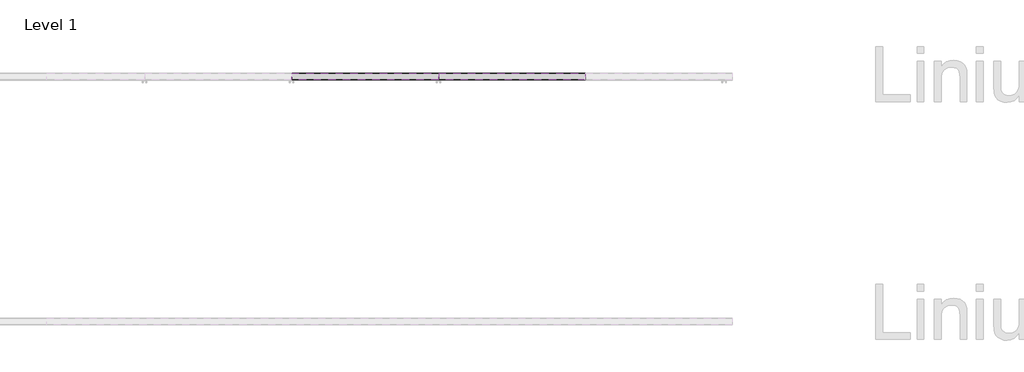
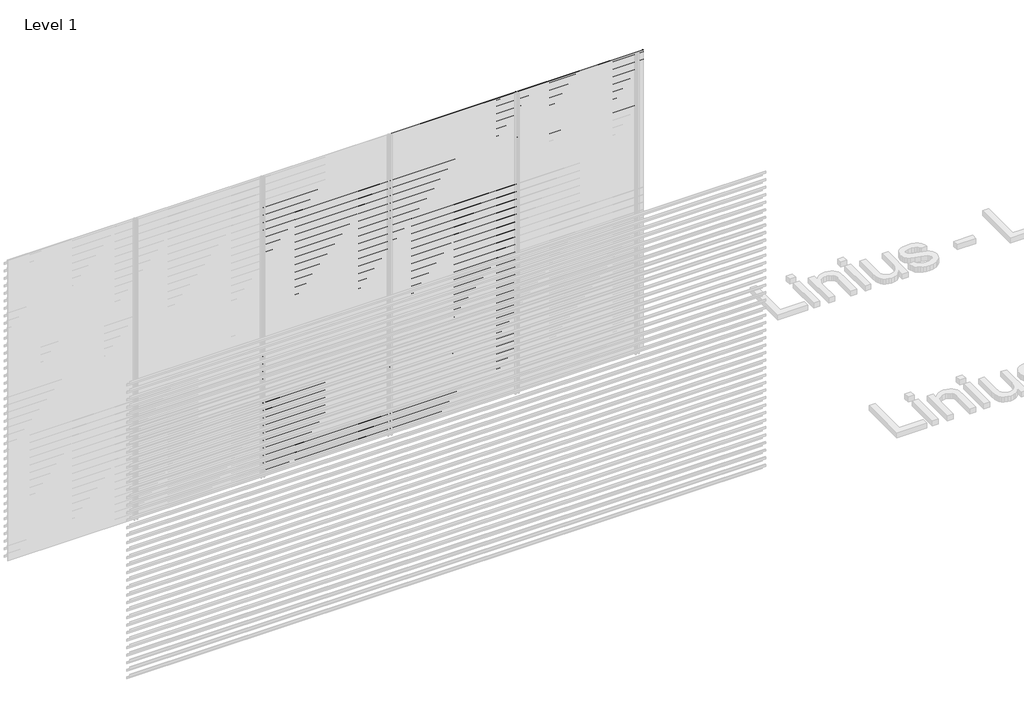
# One storey, part 48 of 55: 84 proxies.
"""IFC4 building model written with IfcOpenShell, lengths in millimetres."""

import ifcopenshell
import ifcopenshell.guid

model = None  # the IFC model being written
_history = None  # IfcOwnerHistory: only IFC2X3 demands one
_inside = {}  # id of a spatial element -> (the spatial element, [elements in it])
_under = {}  # id of a project, library or spatial element -> (it, [spatial elements below it])
_declared = {}  # id of a project -> (the project, [libraries it declares])
_typed = {}  # id of a type object -> (the type object, [elements of that type])
_made_of = {}  # id of a material, layer set ... -> (it, [elements and type objects made of it])


def new_model(schema):
    """Start an empty IFC model of exactly this schema.

    Asked for "IFC4X3", IfcOpenShell would pick the latest addendum, in which some entities
    have other attributes; the version numbers below select the first issue.
    IFC2X3 requires an IfcOwnerHistory on every rooted entity: one is made here for all.
    """
    global model, _history
    if schema == "IFC4X3":
        model = ifcopenshell.file(schema_version=(4, 3, 0, 0))
    else:
        model = ifcopenshell.file(schema=schema)
    _inside.clear()
    _under.clear()
    _declared.clear()
    _typed.clear()
    _made_of.clear()
    _history = None
    if model.schema == "IFC2X3":
        org = make("IfcOrganization", Name="unknown")
        user = make(
            "IfcPersonAndOrganization",
            ThePerson=make("IfcPerson", FamilyName="unknown"),
            TheOrganization=org,
        )
        app = make(
            "IfcApplication",
            ApplicationDeveloper=org,
            Version="unknown",
            ApplicationFullName="unknown",
            ApplicationIdentifier="unknown",
        )
        _history = make(
            "IfcOwnerHistory",
            OwningUser=user,
            OwningApplication=app,
            ChangeAction="ADDED",
            CreationDate=0,
        )
    return model


def make(cls, **values):
    """One entity of the class cls with the attributes given. An attribute that is None is left unset."""
    return model.create_entity(
        cls, **{name: value for name, value in values.items() if value is not None}
    )


def rooted(cls, **values):
    """An entity with a GlobalId (a new one), such as an element, a storey or a relation."""
    return make(cls, GlobalId=ifcopenshell.guid.new(), OwnerHistory=_history, **values)


def si_unit(unit_type, name, prefix=None):
    """IfcSIUnit, for example si_unit("LENGTHUNIT", "METRE", prefix="MILLI")."""
    return make("IfcSIUnit", UnitType=unit_type, Prefix=prefix, Name=name)


def assignment(units):
    """IfcUnitAssignment: the units of a project."""
    return None if units is None else make("IfcUnitAssignment", Units=units)


def point(xyz):
    """IfcCartesianPoint."""
    return None if xyz is None else make("IfcCartesianPoint", Coordinates=xyz)


def direction(xyz):
    """IfcDirection."""
    return None if xyz is None else make("IfcDirection", DirectionRatios=xyz)


def frame(location, z_axis=None, x_axis=None):
    """IfcAxis2Placement3D, a coordinate frame: its origin and axes. An axis left out is left unset."""
    return make(
        "IfcAxis2Placement3D",
        Location=point(location),
        Axis=direction(z_axis),
        RefDirection=direction(x_axis),
    )


def origin():
    """The frame at (0, 0, 0) with its axes left unset."""
    return frame((0.0, 0.0, 0.0))


def place(relative_to, where):
    """IfcLocalPlacement: puts the frame where relative to a parent placement (None: the world)."""
    return make(
        "IfcLocalPlacement", PlacementRelTo=relative_to, RelativePlacement=where
    )


def context(
    kind, dimensions, precision=None, world=None, true_north=None, identifier=None
):
    """IfcGeometricRepresentationContext, for example the 3D "Model" context."""
    return make(
        "IfcGeometricRepresentationContext",
        ContextIdentifier=identifier,
        ContextType=kind,
        CoordinateSpaceDimension=dimensions,
        Precision=precision,
        WorldCoordinateSystem=world,
        TrueNorth=true_north,
    )


def project(units=None, contexts=None):
    """IfcProject with its units and contexts."""
    return rooted(
        "IfcProject",
        Name="project",
        RepresentationContexts=contexts,
        UnitsInContext=assignment(units),
    )


def spatial(cls, under=None, at=None, **own):
    """A site, building, storey or space (cls), placed at a placement, below another one or the project."""
    s = rooted(cls, ObjectPlacement=at, **own)
    if under is not None:
        _under.setdefault(under.id(), (under, []))[1].append(s)
    return s


def polyline(points):
    """IfcPolyline through the points."""
    return make("IfcPolyline", Points=[point(p) for p in points])


def outline(outer, holes=None, kind="AREA"):
    """IfcArbitraryClosedProfileDef: a profile drawn as a closed curve; with holes, ...WithVoids."""
    if holes is None:
        return make("IfcArbitraryClosedProfileDef", ProfileType=kind, OuterCurve=outer)
    return make(
        "IfcArbitraryProfileDefWithVoids",
        ProfileType=kind,
        OuterCurve=outer,
        InnerCurves=holes,
    )


def extrude(swept, where, along, depth):
    """IfcExtrudedAreaSolid: the profile swept, set in the frame where, extruded along a direction by depth."""
    return make(
        "IfcExtrudedAreaSolid",
        SweptArea=swept,
        Position=where,
        ExtrudedDirection=direction(along),
        Depth=depth,
    )


def shape(context_of_items, identifier, shape_type, items):
    """IfcShapeRepresentation: the items that make up one representation, for example the "Body"."""
    return make(
        "IfcShapeRepresentation",
        ContextOfItems=context_of_items,
        RepresentationIdentifier=identifier,
        RepresentationType=shape_type,
        Items=items,
    )


def made_of(thing, what):
    """Note that an element or type object is made of a material, layer set ...; save() writes the relation."""
    if what is not None:
        _made_of.setdefault(what.id(), (what, []))[1].append(thing)
    return thing


def element(
    cls,
    number,
    at=None,
    inside=None,
    cuts=None,
    type_object=None,
    material=None,
    context=None,
    identifier="Body",
    shape_type=None,
    held_by="IfcProductDefinitionShape",
    body=None,
    shapes=None,
    **own,
):
    """One element of the class cls, such as IfcWall. Its Tag is "e" and its number.

    at: its placement. inside: the storey or other place that contains it. cuts: it is an
    opening in that element (IfcRelVoidsElement). A single representation is given by context,
    identifier, shape_type and body (its items); several are given by shapes. held_by: the class
    of the entity that holds the representations. save() writes the other relations.
    """
    e = rooted(cls, Tag="e%d" % number, ObjectPlacement=at, **own)
    if body is not None:
        shapes = [shape(context, identifier, shape_type, body)]
    if shapes is not None:
        e.Representation = make(held_by, Representations=shapes)
    if inside is not None:
        _inside.setdefault(inside.id(), (inside, []))[1].append(e)
    if cuts is not None:
        rooted(
            "IfcRelVoidsElement", RelatingBuildingElement=cuts, RelatedOpeningElement=e
        )
    if type_object is not None:
        _typed.setdefault(type_object.id(), (type_object, []))[1].append(e)
    return made_of(e, material)


def aggregate(whole, parts):
    """IfcRelAggregates: a whole, such as a stair, and the parts it consists of."""
    return rooted("IfcRelAggregates", RelatingObject=whole, RelatedObjects=parts)


def save(model, path):
    """Write the relations noted so far, then the file.

    IfcRelAggregates (storeys below a building ...), IfcRelContainedInSpatialStructure (elements
    in a storey), IfcRelDefinesByType, IfcRelAssociatesMaterial and IfcRelDeclares: one each for
    every whole, place, type object, material and project.
    """
    for whole, parts in _under.values():
        aggregate(whole, parts)
    for where, things in _inside.values():
        rooted(
            "IfcRelContainedInSpatialStructure",
            RelatedElements=things,
            RelatingStructure=where,
        )
    for kind, things in _typed.values():
        rooted("IfcRelDefinesByType", RelatedObjects=things, RelatingType=kind)
    for what, things in _made_of.values():
        rooted("IfcRelAssociatesMaterial", RelatedObjects=things, RelatingMaterial=what)
    for by, libraries in _declared.values():
        rooted("IfcRelDeclares", RelatingContext=by, RelatedDefinitions=libraries)
    model.write(path)


model = new_model("IFC4")

# Units and contexts
model_context = context("Model", 3, world=origin())
ifc_project = project(units=[si_unit("LENGTHUNIT", "METRE", prefix="MILLI")], contexts=[model_context])

# Site, building, storey
site = spatial("IfcSite", under=ifc_project)
building = spatial("IfcBuilding", under=site)
storey = spatial("IfcBuildingStorey", under=building, Name="Level 1", Elevation=0.0)

# Proxies
placement = place(None, origin())
element("IfcBuildingElementProxy", 1, Name="Wall Sweeps", at=placement, inside=storey, context=model_context, shape_type="SweptSolid", body=[
    extrude(outline(polyline([(66581.0540136, 2643.5), (66581.0540136, 2623.5), (66579.8040136, 2624.2216933), (66579.8040136, 2642.7872415), (66526.0540136, 2680.3158044), (66526.0540136, 2700.0), (66527.3040136, 2700.0), (66527.3040136, 2681.0285629), (66581.0540136, 2643.5)])), frame((2866.6208097, 0.0, 0.0), z_axis=(1.0, 0.0, 0.0), x_axis=(0.0, 1.0, 0.0)), (0.0, 0.0, 1.0), 1199.9999999),
])
element("IfcBuildingElementProxy", 2, Name="Wall Sweeps", at=placement, inside=storey, context=model_context, shape_type="SweptSolid", body=[
    extrude(outline(polyline([(66581.0540136, 2568.5), (66581.0540136, 2548.5), (66579.8040136, 2549.2216933), (66579.8040136, 2567.7872415), (66526.0540136, 2605.3158044), (66526.0540136, 2625.0), (66527.3040136, 2625.0), (66527.3040136, 2606.0285629), (66581.0540136, 2568.5)])), frame((2866.6208097, 0.0, 0.0), z_axis=(1.0, 0.0, 0.0), x_axis=(0.0, 1.0, 0.0)), (0.0, 0.0, 1.0), 1199.9999999),
])
element("IfcBuildingElementProxy", 3, Name="Wall Sweeps", at=placement, inside=storey, context=model_context, shape_type="SweptSolid", body=[
    extrude(outline(polyline([(66581.0540136, 2493.5), (66581.0540136, 2473.5), (66579.8040136, 2474.2216933), (66579.8040136, 2492.7872415), (66526.0540136, 2530.3158044), (66526.0540136, 2550.0), (66527.3040136, 2550.0), (66527.3040136, 2531.0285629), (66581.0540136, 2493.5)])), frame((2866.6208097, 0.0, 0.0), z_axis=(1.0, 0.0, 0.0), x_axis=(0.0, 1.0, 0.0)), (0.0, 0.0, 1.0), 1199.9999999),
])
element("IfcBuildingElementProxy", 4, Name="Wall Sweeps", at=placement, inside=storey, context=model_context, shape_type="SweptSolid", body=[
    extrude(outline(polyline([(66581.0540136, 2418.5), (66581.0540136, 2398.5), (66579.8040136, 2399.2216933), (66579.8040136, 2417.7872415), (66526.0540136, 2455.3158044), (66526.0540136, 2475.0), (66527.3040136, 2475.0), (66527.3040136, 2456.0285629), (66581.0540136, 2418.5)])), frame((2866.6208097, 0.0, 0.0), z_axis=(1.0, 0.0, 0.0), x_axis=(0.0, 1.0, 0.0)), (0.0, 0.0, 1.0), 1199.9999999),
])
element("IfcBuildingElementProxy", 5, Name="Wall Sweeps", at=placement, inside=storey, context=model_context, shape_type="SweptSolid", body=[
    extrude(outline(polyline([(66581.0540136, 2343.5), (66581.0540136, 2323.5), (66579.8040136, 2324.2216933), (66579.8040136, 2342.7872415), (66526.0540136, 2380.3158044), (66526.0540136, 2400.0), (66527.3040136, 2400.0), (66527.3040136, 2381.0285629), (66581.0540136, 2343.5)])), frame((2866.6208097, 0.0, 0.0), z_axis=(1.0, 0.0, 0.0), x_axis=(0.0, 1.0, 0.0)), (0.0, 0.0, 1.0), 1199.9999999),
])
element("IfcBuildingElementProxy", 6, Name="Wall Sweeps", at=placement, inside=storey, context=model_context, shape_type="SweptSolid", body=[
    extrude(outline(polyline([(66581.0540136, 2268.5), (66581.0540136, 2248.5), (66579.8040136, 2249.2216933), (66579.8040136, 2267.7872415), (66526.0540136, 2305.3158044), (66526.0540136, 2325.0), (66527.3040136, 2325.0), (66527.3040136, 2306.0285629), (66581.0540136, 2268.5)])), frame((2866.6208097, 0.0, 0.0), z_axis=(1.0, 0.0, 0.0), x_axis=(0.0, 1.0, 0.0)), (0.0, 0.0, 1.0), 1199.9999999),
])
element("IfcBuildingElementProxy", 7, Name="Wall Sweeps", at=placement, inside=storey, context=model_context, shape_type="SweptSolid", body=[
    extrude(outline(polyline([(66581.0540136, 2193.5), (66581.0540136, 2173.5), (66579.8040136, 2174.2216933), (66579.8040136, 2192.7872415), (66526.0540136, 2230.3158044), (66526.0540136, 2250.0), (66527.3040136, 2250.0), (66527.3040136, 2231.0285629), (66581.0540136, 2193.5)])), frame((2866.6208097, 0.0, 0.0), z_axis=(1.0, 0.0, 0.0), x_axis=(0.0, 1.0, 0.0)), (0.0, 0.0, 1.0), 1199.9999999),
])
element("IfcBuildingElementProxy", 8, Name="Wall Sweeps", at=placement, inside=storey, context=model_context, shape_type="SweptSolid", body=[
    extrude(outline(polyline([(66581.0540136, 2118.5), (66581.0540136, 2098.5), (66579.8040136, 2099.2216933), (66579.8040136, 2117.7872415), (66526.0540136, 2155.3158044), (66526.0540136, 2175.0), (66527.3040136, 2175.0), (66527.3040136, 2156.0285629), (66581.0540136, 2118.5)])), frame((2866.6208097, 0.0, 0.0), z_axis=(1.0, 0.0, 0.0), x_axis=(0.0, 1.0, 0.0)), (0.0, 0.0, 1.0), 1199.9999999),
])
element("IfcBuildingElementProxy", 9, Name="Wall Sweeps", at=placement, inside=storey, context=model_context, shape_type="SweptSolid", body=[
    extrude(outline(polyline([(66581.0540136, 2043.5), (66581.0540136, 2023.5), (66579.8040136, 2024.2216933), (66579.8040136, 2042.7872415), (66526.0540136, 2080.3158044), (66526.0540136, 2100.0), (66527.3040136, 2100.0), (66527.3040136, 2081.0285629), (66581.0540136, 2043.5)])), frame((2866.6208097, 0.0, 0.0), z_axis=(1.0, 0.0, 0.0), x_axis=(0.0, 1.0, 0.0)), (0.0, 0.0, 1.0), 1199.9999999),
])
element("IfcBuildingElementProxy", 10, Name="Wall Sweeps", at=placement, inside=storey, context=model_context, shape_type="SweptSolid", body=[
    extrude(outline(polyline([(66581.0540136, 1968.5), (66581.0540136, 1948.5), (66579.8040136, 1949.2216933), (66579.8040136, 1967.7872415), (66526.0540136, 2005.3158044), (66526.0540136, 2025.0), (66527.3040136, 2025.0), (66527.3040136, 2006.0285629), (66581.0540136, 1968.5)])), frame((2866.6208097, 0.0, 0.0), z_axis=(1.0, 0.0, 0.0), x_axis=(0.0, 1.0, 0.0)), (0.0, 0.0, 1.0), 1199.9999999),
])
element("IfcBuildingElementProxy", 11, Name="Wall Sweeps", at=placement, inside=storey, context=model_context, shape_type="SweptSolid", body=[
    extrude(outline(polyline([(66581.0540136, 1893.5), (66581.0540136, 1873.5), (66579.8040136, 1874.2216933), (66579.8040136, 1892.7872415), (66526.0540136, 1930.3158044), (66526.0540136, 1950.0), (66527.3040136, 1950.0), (66527.3040136, 1931.0285629), (66581.0540136, 1893.5)])), frame((2866.6208097, 0.0, 0.0), z_axis=(1.0, 0.0, 0.0), x_axis=(0.0, 1.0, 0.0)), (0.0, 0.0, 1.0), 1199.9999999),
])
element("IfcBuildingElementProxy", 12, Name="Wall Sweeps", at=placement, inside=storey, context=model_context, shape_type="SweptSolid", body=[
    extrude(outline(polyline([(66581.0540136, 1818.5), (66581.0540136, 1798.5), (66579.8040136, 1799.2216933), (66579.8040136, 1817.7872415), (66526.0540136, 1855.3158044), (66526.0540136, 1875.0), (66527.3040136, 1875.0), (66527.3040136, 1856.0285629), (66581.0540136, 1818.5)])), frame((2866.6208097, 0.0, 0.0), z_axis=(1.0, 0.0, 0.0), x_axis=(0.0, 1.0, 0.0)), (0.0, 0.0, 1.0), 1199.9999999),
])
element("IfcBuildingElementProxy", 13, Name="Wall Sweeps", at=placement, inside=storey, context=model_context, shape_type="SweptSolid", body=[
    extrude(outline(polyline([(66581.0540136, 1743.5), (66581.0540136, 1723.5), (66579.8040136, 1724.2216933), (66579.8040136, 1742.7872415), (66526.0540136, 1780.3158044), (66526.0540136, 1800.0), (66527.3040136, 1800.0), (66527.3040136, 1781.0285629), (66581.0540136, 1743.5)])), frame((2866.6208097, 0.0, 0.0), z_axis=(1.0, 0.0, 0.0), x_axis=(0.0, 1.0, 0.0)), (0.0, 0.0, 1.0), 1199.9999999),
])
element("IfcBuildingElementProxy", 14, Name="Wall Sweeps", at=placement, inside=storey, context=model_context, shape_type="SweptSolid", body=[
    extrude(outline(polyline([(66581.0540136, 1668.5), (66581.0540136, 1648.5), (66579.8040136, 1649.2216933), (66579.8040136, 1667.7872415), (66526.0540136, 1705.3158044), (66526.0540136, 1725.0), (66527.3040136, 1725.0), (66527.3040136, 1706.0285629), (66581.0540136, 1668.5)])), frame((2866.6208097, 0.0, 0.0), z_axis=(1.0, 0.0, 0.0), x_axis=(0.0, 1.0, 0.0)), (0.0, 0.0, 1.0), 1199.9999999),
])
element("IfcBuildingElementProxy", 15, Name="Wall Sweeps", at=placement, inside=storey, context=model_context, shape_type="SweptSolid", body=[
    extrude(outline(polyline([(66581.0540136, 1593.5), (66581.0540136, 1573.5), (66579.8040136, 1574.2216933), (66579.8040136, 1592.7872415), (66526.0540136, 1630.3158044), (66526.0540136, 1650.0), (66527.3040136, 1650.0), (66527.3040136, 1631.0285629), (66581.0540136, 1593.5)])), frame((2866.6208097, 0.0, 0.0), z_axis=(1.0, 0.0, 0.0), x_axis=(0.0, 1.0, 0.0)), (0.0, 0.0, 1.0), 1199.9999999),
])
element("IfcBuildingElementProxy", 16, Name="Wall Sweeps", at=placement, inside=storey, context=model_context, shape_type="SweptSolid", body=[
    extrude(outline(polyline([(66581.0540136, 1518.5), (66581.0540136, 1498.5), (66579.8040136, 1499.2216933), (66579.8040136, 1517.7872415), (66526.0540136, 1555.3158044), (66526.0540136, 1575.0), (66527.3040136, 1575.0), (66527.3040136, 1556.0285629), (66581.0540136, 1518.5)])), frame((2866.6208097, 0.0, 0.0), z_axis=(1.0, 0.0, 0.0), x_axis=(0.0, 1.0, 0.0)), (0.0, 0.0, 1.0), 1199.9999999),
])
element("IfcBuildingElementProxy", 17, Name="Wall Sweeps", at=placement, inside=storey, context=model_context, shape_type="SweptSolid", body=[
    extrude(outline(polyline([(66581.0540136, 1443.5), (66581.0540136, 1423.5), (66579.8040136, 1424.2216933), (66579.8040136, 1442.7872415), (66526.0540136, 1480.3158044), (66526.0540136, 1500.0), (66527.3040136, 1500.0), (66527.3040136, 1481.0285629), (66581.0540136, 1443.5)])), frame((2866.6208097, 0.0, 0.0), z_axis=(1.0, 0.0, 0.0), x_axis=(0.0, 1.0, 0.0)), (0.0, 0.0, 1.0), 1199.9999999),
])
element("IfcBuildingElementProxy", 18, Name="Wall Sweeps", at=placement, inside=storey, context=model_context, shape_type="SweptSolid", body=[
    extrude(outline(polyline([(66581.0540136, 1368.5), (66581.0540136, 1348.5), (66579.8040136, 1349.2216933), (66579.8040136, 1367.7872415), (66526.0540136, 1405.3158044), (66526.0540136, 1425.0), (66527.3040136, 1425.0), (66527.3040136, 1406.0285629), (66581.0540136, 1368.5)])), frame((2866.6208097, 0.0, 0.0), z_axis=(1.0, 0.0, 0.0), x_axis=(0.0, 1.0, 0.0)), (0.0, 0.0, 1.0), 1199.9999999),
])
element("IfcBuildingElementProxy", 19, Name="Wall Sweeps", at=placement, inside=storey, context=model_context, shape_type="SweptSolid", body=[
    extrude(outline(polyline([(66581.0540136, 1293.5), (66581.0540136, 1273.5), (66579.8040136, 1274.2216933), (66579.8040136, 1292.7872415), (66526.0540136, 1330.3158044), (66526.0540136, 1350.0), (66527.3040136, 1350.0), (66527.3040136, 1331.0285629), (66581.0540136, 1293.5)])), frame((2866.6208097, 0.0, 0.0), z_axis=(1.0, 0.0, 0.0), x_axis=(0.0, 1.0, 0.0)), (0.0, 0.0, 1.0), 1199.9999999),
])
element("IfcBuildingElementProxy", 20, Name="Wall Sweeps", at=placement, inside=storey, context=model_context, shape_type="SweptSolid", body=[
    extrude(outline(polyline([(66581.0540136, 1218.5), (66581.0540136, 1198.5), (66579.8040136, 1199.2216933), (66579.8040136, 1217.7872415), (66526.0540136, 1255.3158044), (66526.0540136, 1275.0), (66527.3040136, 1275.0), (66527.3040136, 1256.0285629), (66581.0540136, 1218.5)])), frame((2866.6208097, 0.0, 0.0), z_axis=(1.0, 0.0, 0.0), x_axis=(0.0, 1.0, 0.0)), (0.0, 0.0, 1.0), 1199.9999999),
])
element("IfcBuildingElementProxy", 21, Name="Wall Sweeps", at=placement, inside=storey, context=model_context, shape_type="SweptSolid", body=[
    extrude(outline(polyline([(66581.0540136, 1143.5), (66581.0540136, 1123.5), (66579.8040136, 1124.2216933), (66579.8040136, 1142.7872415), (66526.0540136, 1180.3158044), (66526.0540136, 1200.0), (66527.3040136, 1200.0), (66527.3040136, 1181.0285629), (66581.0540136, 1143.5)])), frame((2866.6208097, 0.0, 0.0), z_axis=(1.0, 0.0, 0.0), x_axis=(0.0, 1.0, 0.0)), (0.0, 0.0, 1.0), 1199.9999999),
])
element("IfcBuildingElementProxy", 22, Name="Wall Sweeps", at=placement, inside=storey, context=model_context, shape_type="SweptSolid", body=[
    extrude(outline(polyline([(66581.0540136, 1068.5), (66581.0540136, 1048.5), (66579.8040136, 1049.2216933), (66579.8040136, 1067.7872415), (66526.0540136, 1105.3158044), (66526.0540136, 1125.0), (66527.3040136, 1125.0), (66527.3040136, 1106.0285629), (66581.0540136, 1068.5)])), frame((2866.6208097, 0.0, 0.0), z_axis=(1.0, 0.0, 0.0), x_axis=(0.0, 1.0, 0.0)), (0.0, 0.0, 1.0), 1199.9999999),
])
element("IfcBuildingElementProxy", 23, Name="Wall Sweeps", at=placement, inside=storey, context=model_context, shape_type="SweptSolid", body=[
    extrude(outline(polyline([(66581.0540136, 993.5), (66581.0540136, 973.5), (66579.8040136, 974.2216933), (66579.8040136, 992.7872415), (66526.0540136, 1030.3158044), (66526.0540136, 1050.0), (66527.3040136, 1050.0), (66527.3040136, 1031.0285629), (66581.0540136, 993.5)])), frame((2866.6208097, 0.0, 0.0), z_axis=(1.0, 0.0, 0.0), x_axis=(0.0, 1.0, 0.0)), (0.0, 0.0, 1.0), 1199.9999999),
])
element("IfcBuildingElementProxy", 24, Name="Wall Sweeps", at=placement, inside=storey, context=model_context, shape_type="SweptSolid", body=[
    extrude(outline(polyline([(66581.0540136, 918.5), (66581.0540136, 898.5), (66579.8040136, 899.2216933), (66579.8040136, 917.7872415), (66526.0540136, 955.3158044), (66526.0540136, 975.0), (66527.3040136, 975.0), (66527.3040136, 956.0285629), (66581.0540136, 918.5)])), frame((2866.6208097, 0.0, 0.0), z_axis=(1.0, 0.0, 0.0), x_axis=(0.0, 1.0, 0.0)), (0.0, 0.0, 1.0), 1199.9999999),
])
element("IfcBuildingElementProxy", 25, Name="Wall Sweeps", at=placement, inside=storey, context=model_context, shape_type="SweptSolid", body=[
    extrude(outline(polyline([(66581.0540136, 843.5), (66581.0540136, 823.5), (66579.8040136, 824.2216933), (66579.8040136, 842.7872415), (66526.0540136, 880.3158044), (66526.0540136, 900.0), (66527.3040136, 900.0), (66527.3040136, 881.0285629), (66581.0540136, 843.5)])), frame((2866.6208097, 0.0, 0.0), z_axis=(1.0, 0.0, 0.0), x_axis=(0.0, 1.0, 0.0)), (0.0, 0.0, 1.0), 1199.9999999),
])
element("IfcBuildingElementProxy", 26, Name="Wall Sweeps", at=placement, inside=storey, context=model_context, shape_type="SweptSolid", body=[
    extrude(outline(polyline([(66581.0540136, 768.5), (66581.0540136, 748.5), (66579.8040136, 749.2216933), (66579.8040136, 767.7872415), (66526.0540136, 805.3158044), (66526.0540136, 825.0), (66527.3040136, 825.0), (66527.3040136, 806.0285629), (66581.0540136, 768.5)])), frame((2866.6208097, 0.0, 0.0), z_axis=(1.0, 0.0, 0.0), x_axis=(0.0, 1.0, 0.0)), (0.0, 0.0, 1.0), 1199.9999999),
])
element("IfcBuildingElementProxy", 27, Name="Wall Sweeps", at=placement, inside=storey, context=model_context, shape_type="SweptSolid", body=[
    extrude(outline(polyline([(66581.0540136, 693.5), (66581.0540136, 673.5), (66579.8040136, 674.2216933), (66579.8040136, 692.7872415), (66526.0540136, 730.3158044), (66526.0540136, 750.0), (66527.3040136, 750.0), (66527.3040136, 731.0285629), (66581.0540136, 693.5)])), frame((2866.6208097, 0.0, 0.0), z_axis=(1.0, 0.0, 0.0), x_axis=(0.0, 1.0, 0.0)), (0.0, 0.0, 1.0), 1199.9999999),
])
element("IfcBuildingElementProxy", 28, Name="Wall Sweeps", at=placement, inside=storey, context=model_context, shape_type="SweptSolid", body=[
    extrude(outline(polyline([(66581.0540136, 618.5), (66581.0540136, 598.5), (66579.8040136, 599.2216933), (66579.8040136, 617.7872415), (66526.0540136, 655.3158044), (66526.0540136, 675.0), (66527.3040136, 675.0), (66527.3040136, 656.0285629), (66581.0540136, 618.5)])), frame((2866.6208097, 0.0, 0.0), z_axis=(1.0, 0.0, 0.0), x_axis=(0.0, 1.0, 0.0)), (0.0, 0.0, 1.0), 1199.9999999),
])
element("IfcBuildingElementProxy", 29, Name="Wall Sweeps", at=placement, inside=storey, context=model_context, shape_type="SweptSolid", body=[
    extrude(outline(polyline([(66581.0540136, 543.5), (66581.0540136, 523.5), (66579.8040136, 524.2216933), (66579.8040136, 542.7872415), (66526.0540136, 580.3158044), (66526.0540136, 600.0), (66527.3040136, 600.0), (66527.3040136, 581.0285629), (66581.0540136, 543.5)])), frame((2866.6208097, 0.0, 0.0), z_axis=(1.0, 0.0, 0.0), x_axis=(0.0, 1.0, 0.0)), (0.0, 0.0, 1.0), 1199.9999999),
])
element("IfcBuildingElementProxy", 30, Name="Wall Sweeps", at=placement, inside=storey, context=model_context, shape_type="SweptSolid", body=[
    extrude(outline(polyline([(66581.0540136, 468.5), (66581.0540136, 448.5), (66579.8040136, 449.2216933), (66579.8040136, 467.7872415), (66526.0540136, 505.3158044), (66526.0540136, 525.0), (66527.3040136, 525.0), (66527.3040136, 506.0285629), (66581.0540136, 468.5)])), frame((2866.6208097, 0.0, 0.0), z_axis=(1.0, 0.0, 0.0), x_axis=(0.0, 1.0, 0.0)), (0.0, 0.0, 1.0), 1199.9999999),
])
element("IfcBuildingElementProxy", 31, Name="Wall Sweeps", at=placement, inside=storey, context=model_context, shape_type="SweptSolid", body=[
    extrude(outline(polyline([(66581.0540136, 393.5), (66581.0540136, 373.5), (66579.8040136, 374.2216933), (66579.8040136, 392.7872415), (66526.0540136, 430.3158044), (66526.0540136, 450.0), (66527.3040136, 450.0), (66527.3040136, 431.0285629), (66581.0540136, 393.5)])), frame((2866.6208097, 0.0, 0.0), z_axis=(1.0, 0.0, 0.0), x_axis=(0.0, 1.0, 0.0)), (0.0, 0.0, 1.0), 1199.9999999),
])
element("IfcBuildingElementProxy", 32, Name="Wall Sweeps", at=placement, inside=storey, context=model_context, shape_type="SweptSolid", body=[
    extrude(outline(polyline([(66581.0540136, 318.5), (66581.0540136, 298.5), (66579.8040136, 299.2216933), (66579.8040136, 317.7872415), (66526.0540136, 355.3158044), (66526.0540136, 375.0), (66527.3040136, 375.0), (66527.3040136, 356.0285629), (66581.0540136, 318.5)])), frame((2866.6208097, 0.0, 0.0), z_axis=(1.0, 0.0, 0.0), x_axis=(0.0, 1.0, 0.0)), (0.0, 0.0, 1.0), 1199.9999999),
])
element("IfcBuildingElementProxy", 33, Name="Wall Sweeps", at=placement, inside=storey, context=model_context, shape_type="SweptSolid", body=[
    extrude(outline(polyline([(66581.0540136, 243.5), (66581.0540136, 223.5), (66579.8040136, 224.2216933), (66579.8040136, 242.7872415), (66526.0540136, 280.3158044), (66526.0540136, 300.0), (66527.3040136, 300.0), (66527.3040136, 281.0285629), (66581.0540136, 243.5)])), frame((2866.6208097, 0.0, 0.0), z_axis=(1.0, 0.0, 0.0), x_axis=(0.0, 1.0, 0.0)), (0.0, 0.0, 1.0), 1199.9999999),
])
element("IfcBuildingElementProxy", 34, Name="Wall Sweeps", at=placement, inside=storey, context=model_context, shape_type="SweptSolid", body=[
    extrude(outline(polyline([(66581.0540136, 168.5), (66581.0540136, 148.5), (66579.8040136, 149.2216933), (66579.8040136, 167.7872415), (66526.0540136, 205.3158044), (66526.0540136, 225.0), (66527.3040136, 225.0), (66527.3040136, 206.0285629), (66581.0540136, 168.5)])), frame((2866.6208097, 0.0, 0.0), z_axis=(1.0, 0.0, 0.0), x_axis=(0.0, 1.0, 0.0)), (0.0, 0.0, 1.0), 1199.9999999),
])
element("IfcBuildingElementProxy", 35, Name="Wall Sweeps", at=placement, inside=storey, context=model_context, shape_type="SweptSolid", body=[
    extrude(outline(polyline([(66581.0540136, 93.5), (66581.0540136, 73.5), (66579.8040136, 74.2216933), (66579.8040136, 92.7872415), (66526.0540136, 130.3158044), (66526.0540136, 150.0), (66527.3040136, 150.0), (66527.3040136, 131.0285629), (66581.0540136, 93.5)])), frame((2866.6208097, 0.0, 0.0), z_axis=(1.0, 0.0, 0.0), x_axis=(0.0, 1.0, 0.0)), (0.0, 0.0, 1.0), 1199.9999999),
])
element("IfcBuildingElementProxy", 36, Name="Wall Sweeps", at=placement, inside=storey, context=model_context, shape_type="SweptSolid", body=[
    extrude(outline(polyline([(66581.0540136, 18.5), (66581.0540136, -1.5), (66579.8040136, -0.7783067), (66579.8040136, 17.7872415), (66526.0540136, 55.3158044), (66526.0540136, 75.0), (66527.3040136, 75.0), (66527.3040136, 56.0285629), (66581.0540136, 18.5)])), frame((2866.6208097, 0.0, 0.0), z_axis=(1.0, 0.0, 0.0), x_axis=(0.0, 1.0, 0.0)), (0.0, 0.0, 1.0), 1199.9999999),
])
element("IfcBuildingElementProxy", 37, Name="Wall Sweeps", at=placement, inside=storey, context=model_context, shape_type="SweptSolid", body=[
    extrude(outline(polyline([(66581.0540136, 2943.5), (66581.0540136, 2923.5), (66579.8040136, 2924.2216933), (66579.8040136, 2942.7872415), (66526.0540136, 2980.3158044), (66526.0540136, 3000.0), (66527.3040136, 3000.0), (66527.3040136, 2981.0285629), (66581.0540136, 2943.5)])), frame((5266.6208095, 0.0, 0.0), z_axis=(1.0, 0.0, 0.0), x_axis=(0.0, 1.0, 0.0)), (0.0, 0.0, 1.0), 1200.0000002),
])
element("IfcBuildingElementProxy", 38, Name="Wall Sweeps", at=placement, inside=storey, context=model_context, shape_type="SweptSolid", body=[
    extrude(outline(polyline([(66581.0540136, 2868.5), (66581.0540136, 2848.5), (66579.8040136, 2849.2216933), (66579.8040136, 2867.7872415), (66526.0540136, 2905.3158044), (66526.0540136, 2925.0), (66527.3040136, 2925.0), (66527.3040136, 2906.0285629), (66581.0540136, 2868.5)])), frame((5266.6208095, 0.0, 0.0), z_axis=(1.0, 0.0, 0.0), x_axis=(0.0, 1.0, 0.0)), (0.0, 0.0, 1.0), 1200.0000002),
])
element("IfcBuildingElementProxy", 39, Name="Wall Sweeps", at=placement, inside=storey, context=model_context, shape_type="SweptSolid", body=[
    extrude(outline(polyline([(66581.0540136, 2793.5), (66581.0540136, 2773.5), (66579.8040136, 2774.2216933), (66579.8040136, 2792.7872415), (66526.0540136, 2830.3158044), (66526.0540136, 2850.0), (66527.3040136, 2850.0), (66527.3040136, 2831.0285629), (66581.0540136, 2793.5)])), frame((5266.6208095, 0.0, 0.0), z_axis=(1.0, 0.0, 0.0), x_axis=(0.0, 1.0, 0.0)), (0.0, 0.0, 1.0), 1200.0000002),
])
element("IfcBuildingElementProxy", 40, Name="Wall Sweeps", at=placement, inside=storey, context=model_context, shape_type="SweptSolid", body=[
    extrude(outline(polyline([(66581.0540136, 2718.5), (66581.0540136, 2698.5), (66579.8040136, 2699.2216933), (66579.8040136, 2717.7872415), (66526.0540136, 2755.3158044), (66526.0540136, 2775.0), (66527.3040136, 2775.0), (66527.3040136, 2756.0285629), (66581.0540136, 2718.5)])), frame((5266.6208095, 0.0, 0.0), z_axis=(1.0, 0.0, 0.0), x_axis=(0.0, 1.0, 0.0)), (0.0, 0.0, 1.0), 1200.0000002),
])
element("IfcBuildingElementProxy", 41, Name="Wall Sweeps", at=placement, inside=storey, context=model_context, shape_type="SweptSolid", body=[
    extrude(outline(polyline([(66581.0540136, 2643.5), (66581.0540136, 2623.5), (66579.8040136, 2624.2216933), (66579.8040136, 2642.7872415), (66526.0540136, 2680.3158044), (66526.0540136, 2700.0), (66527.3040136, 2700.0), (66527.3040136, 2681.0285629), (66581.0540136, 2643.5)])), frame((5266.6208095, 0.0, 0.0), z_axis=(1.0, 0.0, 0.0), x_axis=(0.0, 1.0, 0.0)), (0.0, 0.0, 1.0), 1200.0000002),
])
element("IfcBuildingElementProxy", 42, Name="Wall Sweeps", at=placement, inside=storey, context=model_context, shape_type="SweptSolid", body=[
    extrude(outline(polyline([(66581.0540136, 2568.5), (66581.0540136, 2548.5), (66579.8040136, 2549.2216933), (66579.8040136, 2567.7872415), (66526.0540136, 2605.3158044), (66526.0540136, 2625.0), (66527.3040136, 2625.0), (66527.3040136, 2606.0285629), (66581.0540136, 2568.5)])), frame((5266.6208095, 0.0, 0.0), z_axis=(1.0, 0.0, 0.0), x_axis=(0.0, 1.0, 0.0)), (0.0, 0.0, 1.0), 1200.0000002),
])
element("IfcBuildingElementProxy", 43, Name="Wall Sweeps", at=placement, inside=storey, context=model_context, shape_type="SweptSolid", body=[
    extrude(outline(polyline([(66581.0540136, 2493.5), (66581.0540136, 2473.5), (66579.8040136, 2474.2216933), (66579.8040136, 2492.7872415), (66526.0540136, 2530.3158044), (66526.0540136, 2550.0), (66527.3040136, 2550.0), (66527.3040136, 2531.0285629), (66581.0540136, 2493.5)])), frame((5266.6208095, 0.0, 0.0), z_axis=(1.0, 0.0, 0.0), x_axis=(0.0, 1.0, 0.0)), (0.0, 0.0, 1.0), 1200.0000002),
])
element("IfcBuildingElementProxy", 44, Name="Wall Sweeps", at=placement, inside=storey, context=model_context, shape_type="SweptSolid", body=[
    extrude(outline(polyline([(66581.0540136, 2418.5), (66581.0540136, 2398.5), (66579.8040136, 2399.2216933), (66579.8040136, 2417.7872415), (66526.0540136, 2455.3158044), (66526.0540136, 2475.0), (66527.3040136, 2475.0), (66527.3040136, 2456.0285629), (66581.0540136, 2418.5)])), frame((5266.6208095, 0.0, 0.0), z_axis=(1.0, 0.0, 0.0), x_axis=(0.0, 1.0, 0.0)), (0.0, 0.0, 1.0), 1200.0000002),
])
element("IfcBuildingElementProxy", 45, Name="Wall Sweeps", at=placement, inside=storey, context=model_context, shape_type="SweptSolid", body=[
    extrude(outline(polyline([(66581.0540136, 2943.5), (66581.0540136, 2923.5), (66579.8040136, 2924.2216933), (66579.8040136, 2942.7872415), (66526.0540136, 2980.3158044), (66526.0540136, 3000.0), (66527.3040136, 3000.0), (66527.3040136, 2981.0285629), (66581.0540136, 2943.5)])), frame((4066.6208096, 0.0, 0.0), z_axis=(1.0, 0.0, 0.0), x_axis=(0.0, 1.0, 0.0)), (0.0, 0.0, 1.0), 1199.9999999),
])
element("IfcBuildingElementProxy", 46, Name="Wall Sweeps", at=placement, inside=storey, context=model_context, shape_type="SweptSolid", body=[
    extrude(outline(polyline([(66581.0540136, 2868.5), (66581.0540136, 2848.5), (66579.8040136, 2849.2216933), (66579.8040136, 2867.7872415), (66526.0540136, 2905.3158044), (66526.0540136, 2925.0), (66527.3040136, 2925.0), (66527.3040136, 2906.0285629), (66581.0540136, 2868.5)])), frame((4066.6208096, 0.0, 0.0), z_axis=(1.0, 0.0, 0.0), x_axis=(0.0, 1.0, 0.0)), (0.0, 0.0, 1.0), 1199.9999999),
])
element("IfcBuildingElementProxy", 47, Name="Wall Sweeps", at=placement, inside=storey, context=model_context, shape_type="SweptSolid", body=[
    extrude(outline(polyline([(66581.0540136, 2793.5), (66581.0540136, 2773.5), (66579.8040136, 2774.2216933), (66579.8040136, 2792.7872415), (66526.0540136, 2830.3158044), (66526.0540136, 2850.0), (66527.3040136, 2850.0), (66527.3040136, 2831.0285629), (66581.0540136, 2793.5)])), frame((4066.6208096, 0.0, 0.0), z_axis=(1.0, 0.0, 0.0), x_axis=(0.0, 1.0, 0.0)), (0.0, 0.0, 1.0), 1199.9999999),
])
element("IfcBuildingElementProxy", 48, Name="Wall Sweeps", at=placement, inside=storey, context=model_context, shape_type="SweptSolid", body=[
    extrude(outline(polyline([(66581.0540136, 2718.5), (66581.0540136, 2698.5), (66579.8040136, 2699.2216933), (66579.8040136, 2717.7872415), (66526.0540136, 2755.3158044), (66526.0540136, 2775.0), (66527.3040136, 2775.0), (66527.3040136, 2756.0285629), (66581.0540136, 2718.5)])), frame((4066.6208096, 0.0, 0.0), z_axis=(1.0, 0.0, 0.0), x_axis=(0.0, 1.0, 0.0)), (0.0, 0.0, 1.0), 1199.9999999),
])
element("IfcBuildingElementProxy", 49, Name="Wall Sweeps", at=placement, inside=storey, context=model_context, shape_type="SweptSolid", body=[
    extrude(outline(polyline([(66581.0540136, 2643.5), (66581.0540136, 2623.5), (66579.8040136, 2624.2216933), (66579.8040136, 2642.7872415), (66526.0540136, 2680.3158044), (66526.0540136, 2700.0), (66527.3040136, 2700.0), (66527.3040136, 2681.0285629), (66581.0540136, 2643.5)])), frame((4066.6208096, 0.0, 0.0), z_axis=(1.0, 0.0, 0.0), x_axis=(0.0, 1.0, 0.0)), (0.0, 0.0, 1.0), 1199.9999999),
])
element("IfcBuildingElementProxy", 50, Name="Wall Sweeps", at=placement, inside=storey, context=model_context, shape_type="SweptSolid", body=[
    extrude(outline(polyline([(66581.0540136, 2568.5), (66581.0540136, 2548.5), (66579.8040136, 2549.2216933), (66579.8040136, 2567.7872415), (66526.0540136, 2605.3158044), (66526.0540136, 2625.0), (66527.3040136, 2625.0), (66527.3040136, 2606.0285629), (66581.0540136, 2568.5)])), frame((4066.6208096, 0.0, 0.0), z_axis=(1.0, 0.0, 0.0), x_axis=(0.0, 1.0, 0.0)), (0.0, 0.0, 1.0), 1199.9999999),
])
element("IfcBuildingElementProxy", 51, Name="Wall Sweeps", at=placement, inside=storey, context=model_context, shape_type="SweptSolid", body=[
    extrude(outline(polyline([(66581.0540136, 2493.5), (66581.0540136, 2473.5), (66579.8040136, 2474.2216933), (66579.8040136, 2492.7872415), (66526.0540136, 2530.3158044), (66526.0540136, 2550.0), (66527.3040136, 2550.0), (66527.3040136, 2531.0285629), (66581.0540136, 2493.5)])), frame((4066.6208096, 0.0, 0.0), z_axis=(1.0, 0.0, 0.0), x_axis=(0.0, 1.0, 0.0)), (0.0, 0.0, 1.0), 1199.9999999),
])
element("IfcBuildingElementProxy", 52, Name="Wall Sweeps", at=placement, inside=storey, context=model_context, shape_type="SweptSolid", body=[
    extrude(outline(polyline([(66581.0540136, 2418.5), (66581.0540136, 2398.5), (66579.8040136, 2399.2216933), (66579.8040136, 2417.7872415), (66526.0540136, 2455.3158044), (66526.0540136, 2475.0), (66527.3040136, 2475.0), (66527.3040136, 2456.0285629), (66581.0540136, 2418.5)])), frame((4066.6208096, 0.0, 0.0), z_axis=(1.0, 0.0, 0.0), x_axis=(0.0, 1.0, 0.0)), (0.0, 0.0, 1.0), 1199.9999999),
])
element("IfcBuildingElementProxy", 53, Name="Wall Sweeps", at=placement, inside=storey, context=model_context, shape_type="SweptSolid", body=[
    extrude(outline(polyline([(66581.0540136, 2343.5), (66581.0540136, 2323.5), (66579.8040136, 2324.2216933), (66579.8040136, 2342.7872415), (66526.0540136, 2380.3158044), (66526.0540136, 2400.0), (66527.3040136, 2400.0), (66527.3040136, 2381.0285629), (66581.0540136, 2343.5)])), frame((4066.6208096, 0.0, 0.0), z_axis=(1.0, 0.0, 0.0), x_axis=(0.0, 1.0, 0.0)), (0.0, 0.0, 1.0), 1199.9999999),
])
element("IfcBuildingElementProxy", 54, Name="Wall Sweeps", at=placement, inside=storey, context=model_context, shape_type="SweptSolid", body=[
    extrude(outline(polyline([(66581.0540136, 2268.5), (66581.0540136, 2248.5), (66579.8040136, 2249.2216933), (66579.8040136, 2267.7872415), (66526.0540136, 2305.3158044), (66526.0540136, 2325.0), (66527.3040136, 2325.0), (66527.3040136, 2306.0285629), (66581.0540136, 2268.5)])), frame((4066.6208096, 0.0, 0.0), z_axis=(1.0, 0.0, 0.0), x_axis=(0.0, 1.0, 0.0)), (0.0, 0.0, 1.0), 1199.9999999),
])
element("IfcBuildingElementProxy", 55, Name="Wall Sweeps", at=placement, inside=storey, context=model_context, shape_type="SweptSolid", body=[
    extrude(outline(polyline([(66581.0540136, 2193.5), (66581.0540136, 2173.5), (66579.8040136, 2174.2216933), (66579.8040136, 2192.7872415), (66526.0540136, 2230.3158044), (66526.0540136, 2250.0), (66527.3040136, 2250.0), (66527.3040136, 2231.0285629), (66581.0540136, 2193.5)])), frame((4066.6208096, 0.0, 0.0), z_axis=(1.0, 0.0, 0.0), x_axis=(0.0, 1.0, 0.0)), (0.0, 0.0, 1.0), 1199.9999999),
])
element("IfcBuildingElementProxy", 56, Name="Wall Sweeps", at=placement, inside=storey, context=model_context, shape_type="SweptSolid", body=[
    extrude(outline(polyline([(66581.0540136, 2118.5), (66581.0540136, 2098.5), (66579.8040136, 2099.2216933), (66579.8040136, 2117.7872415), (66526.0540136, 2155.3158044), (66526.0540136, 2175.0), (66527.3040136, 2175.0), (66527.3040136, 2156.0285629), (66581.0540136, 2118.5)])), frame((4066.6208096, 0.0, 0.0), z_axis=(1.0, 0.0, 0.0), x_axis=(0.0, 1.0, 0.0)), (0.0, 0.0, 1.0), 1199.9999999),
])
element("IfcBuildingElementProxy", 57, Name="Wall Sweeps", at=placement, inside=storey, context=model_context, shape_type="SweptSolid", body=[
    extrude(outline(polyline([(66581.0540136, 2043.5), (66581.0540136, 2023.5), (66579.8040136, 2024.2216933), (66579.8040136, 2042.7872415), (66526.0540136, 2080.3158044), (66526.0540136, 2100.0), (66527.3040136, 2100.0), (66527.3040136, 2081.0285629), (66581.0540136, 2043.5)])), frame((4066.6208096, 0.0, 0.0), z_axis=(1.0, 0.0, 0.0), x_axis=(0.0, 1.0, 0.0)), (0.0, 0.0, 1.0), 1199.9999999),
])
element("IfcBuildingElementProxy", 58, Name="Wall Sweeps", at=placement, inside=storey, context=model_context, shape_type="SweptSolid", body=[
    extrude(outline(polyline([(66581.0540136, 1968.5), (66581.0540136, 1948.5), (66579.8040136, 1949.2216933), (66579.8040136, 1967.7872415), (66526.0540136, 2005.3158044), (66526.0540136, 2025.0), (66527.3040136, 2025.0), (66527.3040136, 2006.0285629), (66581.0540136, 1968.5)])), frame((4066.6208096, 0.0, 0.0), z_axis=(1.0, 0.0, 0.0), x_axis=(0.0, 1.0, 0.0)), (0.0, 0.0, 1.0), 1199.9999999),
])
element("IfcBuildingElementProxy", 59, Name="Wall Sweeps", at=placement, inside=storey, context=model_context, shape_type="SweptSolid", body=[
    extrude(outline(polyline([(66581.0540136, 1893.5), (66581.0540136, 1873.5), (66579.8040136, 1874.2216933), (66579.8040136, 1892.7872415), (66526.0540136, 1930.3158044), (66526.0540136, 1950.0), (66527.3040136, 1950.0), (66527.3040136, 1931.0285629), (66581.0540136, 1893.5)])), frame((4066.6208096, 0.0, 0.0), z_axis=(1.0, 0.0, 0.0), x_axis=(0.0, 1.0, 0.0)), (0.0, 0.0, 1.0), 1199.9999999),
])
element("IfcBuildingElementProxy", 60, Name="Wall Sweeps", at=placement, inside=storey, context=model_context, shape_type="SweptSolid", body=[
    extrude(outline(polyline([(66581.0540136, 1818.5), (66581.0540136, 1798.5), (66579.8040136, 1799.2216933), (66579.8040136, 1817.7872415), (66526.0540136, 1855.3158044), (66526.0540136, 1875.0), (66527.3040136, 1875.0), (66527.3040136, 1856.0285629), (66581.0540136, 1818.5)])), frame((4066.6208096, 0.0, 0.0), z_axis=(1.0, 0.0, 0.0), x_axis=(0.0, 1.0, 0.0)), (0.0, 0.0, 1.0), 1199.9999999),
])
element("IfcBuildingElementProxy", 61, Name="Wall Sweeps", at=placement, inside=storey, context=model_context, shape_type="SweptSolid", body=[
    extrude(outline(polyline([(66581.0540136, 1743.5), (66581.0540136, 1723.5), (66579.8040136, 1724.2216933), (66579.8040136, 1742.7872415), (66526.0540136, 1780.3158044), (66526.0540136, 1800.0), (66527.3040136, 1800.0), (66527.3040136, 1781.0285629), (66581.0540136, 1743.5)])), frame((4066.6208096, 0.0, 0.0), z_axis=(1.0, 0.0, 0.0), x_axis=(0.0, 1.0, 0.0)), (0.0, 0.0, 1.0), 1199.9999999),
])
element("IfcBuildingElementProxy", 62, Name="Wall Sweeps", at=placement, inside=storey, context=model_context, shape_type="SweptSolid", body=[
    extrude(outline(polyline([(66581.0540136, 1668.5), (66581.0540136, 1648.5), (66579.8040136, 1649.2216933), (66579.8040136, 1667.7872415), (66526.0540136, 1705.3158044), (66526.0540136, 1725.0), (66527.3040136, 1725.0), (66527.3040136, 1706.0285629), (66581.0540136, 1668.5)])), frame((4066.6208096, 0.0, 0.0), z_axis=(1.0, 0.0, 0.0), x_axis=(0.0, 1.0, 0.0)), (0.0, 0.0, 1.0), 1199.9999999),
])
element("IfcBuildingElementProxy", 63, Name="Wall Sweeps", at=placement, inside=storey, context=model_context, shape_type="SweptSolid", body=[
    extrude(outline(polyline([(66581.0540136, 1593.5), (66581.0540136, 1573.5), (66579.8040136, 1574.2216933), (66579.8040136, 1592.7872415), (66526.0540136, 1630.3158044), (66526.0540136, 1650.0), (66527.3040136, 1650.0), (66527.3040136, 1631.0285629), (66581.0540136, 1593.5)])), frame((4066.6208096, 0.0, 0.0), z_axis=(1.0, 0.0, 0.0), x_axis=(0.0, 1.0, 0.0)), (0.0, 0.0, 1.0), 1199.9999999),
])
element("IfcBuildingElementProxy", 64, Name="Wall Sweeps", at=placement, inside=storey, context=model_context, shape_type="SweptSolid", body=[
    extrude(outline(polyline([(66581.0540136, 1518.5), (66581.0540136, 1498.5), (66579.8040136, 1499.2216933), (66579.8040136, 1517.7872415), (66526.0540136, 1555.3158044), (66526.0540136, 1575.0), (66527.3040136, 1575.0), (66527.3040136, 1556.0285629), (66581.0540136, 1518.5)])), frame((4066.6208096, 0.0, 0.0), z_axis=(1.0, 0.0, 0.0), x_axis=(0.0, 1.0, 0.0)), (0.0, 0.0, 1.0), 1199.9999999),
])
element("IfcBuildingElementProxy", 65, Name="Wall Sweeps", at=placement, inside=storey, context=model_context, shape_type="SweptSolid", body=[
    extrude(outline(polyline([(66581.0540136, 1443.5), (66581.0540136, 1423.5), (66579.8040136, 1424.2216933), (66579.8040136, 1442.7872415), (66526.0540136, 1480.3158044), (66526.0540136, 1500.0), (66527.3040136, 1500.0), (66527.3040136, 1481.0285629), (66581.0540136, 1443.5)])), frame((4066.6208096, 0.0, 0.0), z_axis=(1.0, 0.0, 0.0), x_axis=(0.0, 1.0, 0.0)), (0.0, 0.0, 1.0), 1199.9999999),
])
element("IfcBuildingElementProxy", 66, Name="Wall Sweeps", at=placement, inside=storey, context=model_context, shape_type="SweptSolid", body=[
    extrude(outline(polyline([(66581.0540136, 1368.5), (66581.0540136, 1348.5), (66579.8040136, 1349.2216933), (66579.8040136, 1367.7872415), (66526.0540136, 1405.3158044), (66526.0540136, 1425.0), (66527.3040136, 1425.0), (66527.3040136, 1406.0285629), (66581.0540136, 1368.5)])), frame((4066.6208096, 0.0, 0.0), z_axis=(1.0, 0.0, 0.0), x_axis=(0.0, 1.0, 0.0)), (0.0, 0.0, 1.0), 1199.9999999),
])
element("IfcBuildingElementProxy", 67, Name="Wall Sweeps", at=placement, inside=storey, context=model_context, shape_type="SweptSolid", body=[
    extrude(outline(polyline([(66581.0540136, 1293.5), (66581.0540136, 1273.5), (66579.8040136, 1274.2216933), (66579.8040136, 1292.7872415), (66526.0540136, 1330.3158044), (66526.0540136, 1350.0), (66527.3040136, 1350.0), (66527.3040136, 1331.0285629), (66581.0540136, 1293.5)])), frame((4066.6208096, 0.0, 0.0), z_axis=(1.0, 0.0, 0.0), x_axis=(0.0, 1.0, 0.0)), (0.0, 0.0, 1.0), 1199.9999999),
])
element("IfcBuildingElementProxy", 68, Name="Wall Sweeps", at=placement, inside=storey, context=model_context, shape_type="SweptSolid", body=[
    extrude(outline(polyline([(66581.0540136, 1218.5), (66581.0540136, 1198.5), (66579.8040136, 1199.2216933), (66579.8040136, 1217.7872415), (66526.0540136, 1255.3158044), (66526.0540136, 1275.0), (66527.3040136, 1275.0), (66527.3040136, 1256.0285629), (66581.0540136, 1218.5)])), frame((4066.6208096, 0.0, 0.0), z_axis=(1.0, 0.0, 0.0), x_axis=(0.0, 1.0, 0.0)), (0.0, 0.0, 1.0), 1199.9999999),
])
element("IfcBuildingElementProxy", 69, Name="Wall Sweeps", at=placement, inside=storey, context=model_context, shape_type="SweptSolid", body=[
    extrude(outline(polyline([(66581.0540136, 1143.5), (66581.0540136, 1123.5), (66579.8040136, 1124.2216933), (66579.8040136, 1142.7872415), (66526.0540136, 1180.3158044), (66526.0540136, 1200.0), (66527.3040136, 1200.0), (66527.3040136, 1181.0285629), (66581.0540136, 1143.5)])), frame((4066.6208096, 0.0, 0.0), z_axis=(1.0, 0.0, 0.0), x_axis=(0.0, 1.0, 0.0)), (0.0, 0.0, 1.0), 1199.9999999),
])
element("IfcBuildingElementProxy", 70, Name="Wall Sweeps", at=placement, inside=storey, context=model_context, shape_type="SweptSolid", body=[
    extrude(outline(polyline([(66581.0540136, 1068.5), (66581.0540136, 1048.5), (66579.8040136, 1049.2216933), (66579.8040136, 1067.7872415), (66526.0540136, 1105.3158044), (66526.0540136, 1125.0), (66527.3040136, 1125.0), (66527.3040136, 1106.0285629), (66581.0540136, 1068.5)])), frame((4066.6208096, 0.0, 0.0), z_axis=(1.0, 0.0, 0.0), x_axis=(0.0, 1.0, 0.0)), (0.0, 0.0, 1.0), 1199.9999999),
])
element("IfcBuildingElementProxy", 71, Name="Wall Sweeps", at=placement, inside=storey, context=model_context, shape_type="SweptSolid", body=[
    extrude(outline(polyline([(66581.0540136, 993.5), (66581.0540136, 973.5), (66579.8040136, 974.2216933), (66579.8040136, 992.7872415), (66526.0540136, 1030.3158044), (66526.0540136, 1050.0), (66527.3040136, 1050.0), (66527.3040136, 1031.0285629), (66581.0540136, 993.5)])), frame((4066.6208096, 0.0, 0.0), z_axis=(1.0, 0.0, 0.0), x_axis=(0.0, 1.0, 0.0)), (0.0, 0.0, 1.0), 1199.9999999),
])
element("IfcBuildingElementProxy", 72, Name="Wall Sweeps", at=placement, inside=storey, context=model_context, shape_type="SweptSolid", body=[
    extrude(outline(polyline([(66581.0540136, 918.5), (66581.0540136, 898.5), (66579.8040136, 899.2216933), (66579.8040136, 917.7872415), (66526.0540136, 955.3158044), (66526.0540136, 975.0), (66527.3040136, 975.0), (66527.3040136, 956.0285629), (66581.0540136, 918.5)])), frame((4066.6208096, 0.0, 0.0), z_axis=(1.0, 0.0, 0.0), x_axis=(0.0, 1.0, 0.0)), (0.0, 0.0, 1.0), 1199.9999999),
])
element("IfcBuildingElementProxy", 73, Name="Wall Sweeps", at=placement, inside=storey, context=model_context, shape_type="SweptSolid", body=[
    extrude(outline(polyline([(66581.0540136, 843.5), (66581.0540136, 823.5), (66579.8040136, 824.2216933), (66579.8040136, 842.7872415), (66526.0540136, 880.3158044), (66526.0540136, 900.0), (66527.3040136, 900.0), (66527.3040136, 881.0285629), (66581.0540136, 843.5)])), frame((4066.6208096, 0.0, 0.0), z_axis=(1.0, 0.0, 0.0), x_axis=(0.0, 1.0, 0.0)), (0.0, 0.0, 1.0), 1199.9999999),
])
element("IfcBuildingElementProxy", 74, Name="Wall Sweeps", at=placement, inside=storey, context=model_context, shape_type="SweptSolid", body=[
    extrude(outline(polyline([(66581.0540136, 768.5), (66581.0540136, 748.5), (66579.8040136, 749.2216933), (66579.8040136, 767.7872415), (66526.0540136, 805.3158044), (66526.0540136, 825.0), (66527.3040136, 825.0), (66527.3040136, 806.0285629), (66581.0540136, 768.5)])), frame((4066.6208096, 0.0, 0.0), z_axis=(1.0, 0.0, 0.0), x_axis=(0.0, 1.0, 0.0)), (0.0, 0.0, 1.0), 1199.9999999),
])
element("IfcBuildingElementProxy", 75, Name="Wall Sweeps", at=placement, inside=storey, context=model_context, shape_type="SweptSolid", body=[
    extrude(outline(polyline([(66581.0540136, 693.5), (66581.0540136, 673.5), (66579.8040136, 674.2216933), (66579.8040136, 692.7872415), (66526.0540136, 730.3158044), (66526.0540136, 750.0), (66527.3040136, 750.0), (66527.3040136, 731.0285629), (66581.0540136, 693.5)])), frame((4066.6208096, 0.0, 0.0), z_axis=(1.0, 0.0, 0.0), x_axis=(0.0, 1.0, 0.0)), (0.0, 0.0, 1.0), 1199.9999999),
])
element("IfcBuildingElementProxy", 76, Name="Wall Sweeps", at=placement, inside=storey, context=model_context, shape_type="SweptSolid", body=[
    extrude(outline(polyline([(66581.0540136, 618.5), (66581.0540136, 598.5), (66579.8040136, 599.2216933), (66579.8040136, 617.7872415), (66526.0540136, 655.3158044), (66526.0540136, 675.0), (66527.3040136, 675.0), (66527.3040136, 656.0285629), (66581.0540136, 618.5)])), frame((4066.6208096, 0.0, 0.0), z_axis=(1.0, 0.0, 0.0), x_axis=(0.0, 1.0, 0.0)), (0.0, 0.0, 1.0), 1199.9999999),
])
element("IfcBuildingElementProxy", 77, Name="Wall Sweeps", at=placement, inside=storey, context=model_context, shape_type="SweptSolid", body=[
    extrude(outline(polyline([(66581.0540136, 543.5), (66581.0540136, 523.5), (66579.8040136, 524.2216933), (66579.8040136, 542.7872415), (66526.0540136, 580.3158044), (66526.0540136, 600.0), (66527.3040136, 600.0), (66527.3040136, 581.0285629), (66581.0540136, 543.5)])), frame((4066.6208096, 0.0, 0.0), z_axis=(1.0, 0.0, 0.0), x_axis=(0.0, 1.0, 0.0)), (0.0, 0.0, 1.0), 1199.9999999),
])
element("IfcBuildingElementProxy", 78, Name="Wall Sweeps", at=placement, inside=storey, context=model_context, shape_type="SweptSolid", body=[
    extrude(outline(polyline([(66581.0540136, 468.5), (66581.0540136, 448.5), (66579.8040136, 449.2216933), (66579.8040136, 467.7872415), (66526.0540136, 505.3158044), (66526.0540136, 525.0), (66527.3040136, 525.0), (66527.3040136, 506.0285629), (66581.0540136, 468.5)])), frame((4066.6208096, 0.0, 0.0), z_axis=(1.0, 0.0, 0.0), x_axis=(0.0, 1.0, 0.0)), (0.0, 0.0, 1.0), 1199.9999999),
])
element("IfcBuildingElementProxy", 79, Name="Wall Sweeps", at=placement, inside=storey, context=model_context, shape_type="SweptSolid", body=[
    extrude(outline(polyline([(66581.0540136, 393.5), (66581.0540136, 373.5), (66579.8040136, 374.2216933), (66579.8040136, 392.7872415), (66526.0540136, 430.3158044), (66526.0540136, 450.0), (66527.3040136, 450.0), (66527.3040136, 431.0285629), (66581.0540136, 393.5)])), frame((4066.6208096, 0.0, 0.0), z_axis=(1.0, 0.0, 0.0), x_axis=(0.0, 1.0, 0.0)), (0.0, 0.0, 1.0), 1199.9999999),
])
element("IfcBuildingElementProxy", 80, Name="Wall Sweeps", at=placement, inside=storey, context=model_context, shape_type="SweptSolid", body=[
    extrude(outline(polyline([(66581.0540136, 318.5), (66581.0540136, 298.5), (66579.8040136, 299.2216933), (66579.8040136, 317.7872415), (66526.0540136, 355.3158044), (66526.0540136, 375.0), (66527.3040136, 375.0), (66527.3040136, 356.0285629), (66581.0540136, 318.5)])), frame((4066.6208096, 0.0, 0.0), z_axis=(1.0, 0.0, 0.0), x_axis=(0.0, 1.0, 0.0)), (0.0, 0.0, 1.0), 1199.9999999),
])
element("IfcBuildingElementProxy", 81, Name="Wall Sweeps", at=placement, inside=storey, context=model_context, shape_type="SweptSolid", body=[
    extrude(outline(polyline([(66581.0540136, 243.5), (66581.0540136, 223.5), (66579.8040136, 224.2216933), (66579.8040136, 242.7872415), (66526.0540136, 280.3158044), (66526.0540136, 300.0), (66527.3040136, 300.0), (66527.3040136, 281.0285629), (66581.0540136, 243.5)])), frame((4066.6208096, 0.0, 0.0), z_axis=(1.0, 0.0, 0.0), x_axis=(0.0, 1.0, 0.0)), (0.0, 0.0, 1.0), 1199.9999999),
])
element("IfcBuildingElementProxy", 82, Name="Wall Sweeps", at=placement, inside=storey, context=model_context, shape_type="SweptSolid", body=[
    extrude(outline(polyline([(66581.0540136, 168.5), (66581.0540136, 148.5), (66579.8040136, 149.2216933), (66579.8040136, 167.7872415), (66526.0540136, 205.3158044), (66526.0540136, 225.0), (66527.3040136, 225.0), (66527.3040136, 206.0285629), (66581.0540136, 168.5)])), frame((4066.6208096, 0.0, 0.0), z_axis=(1.0, 0.0, 0.0), x_axis=(0.0, 1.0, 0.0)), (0.0, 0.0, 1.0), 1199.9999999),
])
element("IfcBuildingElementProxy", 83, Name="Wall Sweeps", at=placement, inside=storey, context=model_context, shape_type="SweptSolid", body=[
    extrude(outline(polyline([(66581.0540136, 93.5), (66581.0540136, 73.5), (66579.8040136, 74.2216933), (66579.8040136, 92.7872415), (66526.0540136, 130.3158044), (66526.0540136, 150.0), (66527.3040136, 150.0), (66527.3040136, 131.0285629), (66581.0540136, 93.5)])), frame((4066.6208096, 0.0, 0.0), z_axis=(1.0, 0.0, 0.0), x_axis=(0.0, 1.0, 0.0)), (0.0, 0.0, 1.0), 1199.9999999),
])
element("IfcBuildingElementProxy", 84, Name="Wall Sweeps", at=placement, inside=storey, context=model_context, shape_type="SweptSolid", body=[
    extrude(outline(polyline([(66581.0540136, 18.5), (66581.0540136, -1.5), (66579.8040136, -0.7783067), (66579.8040136, 17.7872415), (66526.0540136, 55.3158044), (66526.0540136, 75.0), (66527.3040136, 75.0), (66527.3040136, 56.0285629), (66581.0540136, 18.5)])), frame((4066.6208096, 0.0, 0.0), z_axis=(1.0, 0.0, 0.0), x_axis=(0.0, 1.0, 0.0)), (0.0, 0.0, 1.0), 1199.9999999),
])

save(model, "model.ifc")
